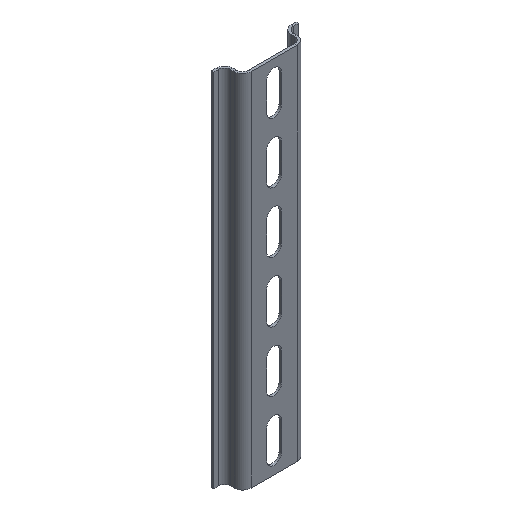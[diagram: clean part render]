
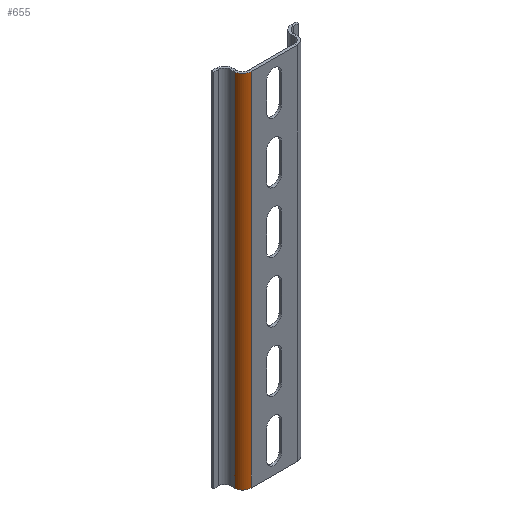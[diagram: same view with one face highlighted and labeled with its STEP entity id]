
A CAD part, isometric view. The second image highlights one B-rep face of the part: STEP entity #655.
In plain terms, the highlighted cylindrical face has radius 3.5 mm (diameter 7 mm), a partial arc.
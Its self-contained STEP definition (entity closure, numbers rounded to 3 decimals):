
#23 = DIRECTION ( 'NONE',  ( 0., 0., -1. ) ) ;
#65 = AXIS2_PLACEMENT_3D ( 'NONE', #1005, #1011, #1794 ) ;
#77 = CIRCLE ( 'NONE', #65, 3.5 ) ;
#96 = VECTOR ( 'NONE', #876, 1000. ) ;
#191 = DIRECTION ( 'NONE',  ( 1., 0., 0. ) ) ;
#194 = LINE ( 'NONE', #1273, #853 ) ;
#228 = LINE ( 'NONE', #1219, #96 ) ;
#330 = CARTESIAN_POINT ( 'NONE',  ( -13.1, 2.5, 150. ) ) ;
#486 = EDGE_CURVE ( 'NONE', #544, #1085, #667, .T. ) ;
#504 = VERTEX_POINT ( 'NONE', #330 ) ;
#509 = CYLINDRICAL_SURFACE ( 'NONE', #2032, 3.5 ) ;
#544 = VERTEX_POINT ( 'NONE', #1940 ) ;
#568 = ORIENTED_EDGE ( 'NONE', *, *, #1419, .F. ) ;
#606 = CARTESIAN_POINT ( 'NONE',  ( -13.1, 2.5, 0. ) ) ;
#655 = ADVANCED_FACE ( 'NONE', ( #2014 ), #509, .T. ) ;
#667 = CIRCLE ( 'NONE', #1520, 3.5 ) ;
#708 = EDGE_CURVE ( 'NONE', #1270, #504, #77, .T. ) ;
#853 = VECTOR ( 'NONE', #1118, 1000. ) ;
#876 = DIRECTION ( 'NONE',  ( 0., 0., -1. ) ) ;
#1005 = CARTESIAN_POINT ( 'NONE',  ( -9.6, 2.5, 150. ) ) ;
#1010 = EDGE_LOOP ( 'NONE', ( #1929, #568, #1719, #1602 ) ) ;
#1011 = DIRECTION ( 'NONE',  ( 0., 0., -1. ) ) ;
#1085 = VERTEX_POINT ( 'NONE', #606 ) ;
#1118 = DIRECTION ( 'NONE',  ( 0., 0., -1. ) ) ;
#1139 = DIRECTION ( 'NONE',  ( -1., 0., 0. ) ) ;
#1219 = CARTESIAN_POINT ( 'NONE',  ( -9.6, -1., 150. ) ) ;
#1270 = VERTEX_POINT ( 'NONE', #1298 ) ;
#1273 = CARTESIAN_POINT ( 'NONE',  ( -13.1, 2.5, 150. ) ) ;
#1298 = CARTESIAN_POINT ( 'NONE',  ( -9.6, -1., 150. ) ) ;
#1419 = EDGE_CURVE ( 'NONE', #1270, #544, #228, .T. ) ;
#1520 = AXIS2_PLACEMENT_3D ( 'NONE', #1905, #23, #191 ) ;
#1602 = ORIENTED_EDGE ( 'NONE', *, *, #1674, .T. ) ;
#1608 = DIRECTION ( 'NONE',  ( 0., 0., -1. ) ) ;
#1674 = EDGE_CURVE ( 'NONE', #504, #1085, #194, .T. ) ;
#1719 = ORIENTED_EDGE ( 'NONE', *, *, #708, .T. ) ;
#1746 = CARTESIAN_POINT ( 'NONE',  ( -9.6, 2.5, 150. ) ) ;
#1794 = DIRECTION ( 'NONE',  ( 1., 0., 0. ) ) ;
#1905 = CARTESIAN_POINT ( 'NONE',  ( -9.6, 2.5, 0. ) ) ;
#1929 = ORIENTED_EDGE ( 'NONE', *, *, #486, .F. ) ;
#1940 = CARTESIAN_POINT ( 'NONE',  ( -9.6, -1., 0. ) ) ;
#2014 = FACE_OUTER_BOUND ( 'NONE', #1010, .T. ) ;
#2032 = AXIS2_PLACEMENT_3D ( 'NONE', #1746, #1608, #1139 ) ;
